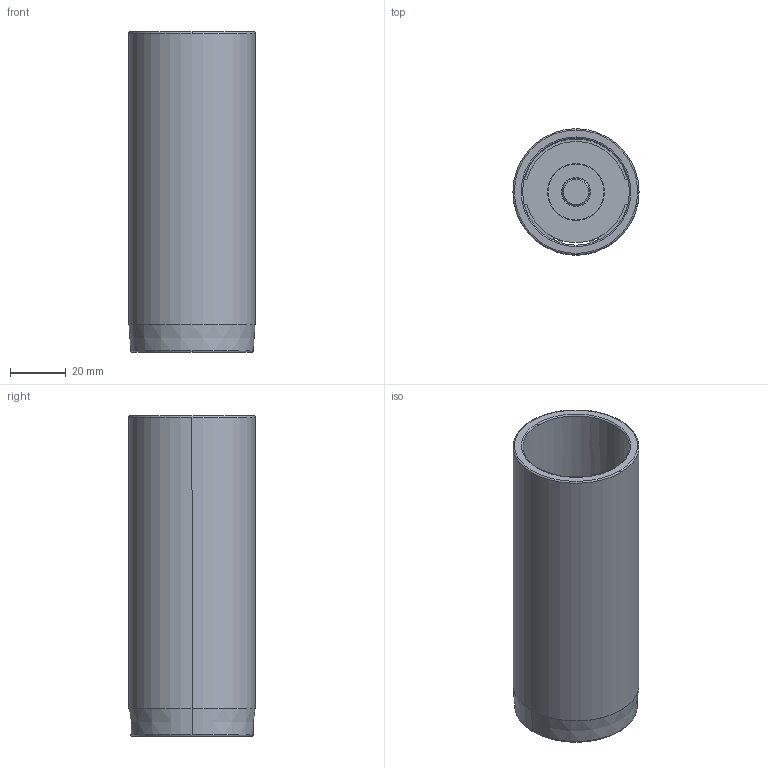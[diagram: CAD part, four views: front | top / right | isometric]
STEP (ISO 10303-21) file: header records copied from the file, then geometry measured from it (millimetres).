
FILE_DESCRIPTION((''),'2;1');
FILE_NAME('C12_038_115.stp','2009-01-28T11:29:53',(''),(''),'Mechanical Desktop 2009','Mechanical Desktop 2009',', , ');
FILE_SCHEMA(('CONFIG_CONTROL_DESIGN'));
Length unit declared in the file: millimetre
Products named in the file (2): Product; blmdl1
Assembly tree (1 placements, depth 2):
  Product
    blmdl1
Bounding box: 45.25 x 45.25 x 115 mm (x, y, z)
Volume: 56690.5 mm3; surface area: 37133.7 mm2
Topology: 5 solids, 5 shells, 79 faces, 200 edges, 134 vertices
Faces by surface type: cylinder 34, plane 29, torus 10, cone 6
Entity records: 2585 total; most frequent: DIRECTION 480, CARTESIAN_POINT 435, ORIENTED_EDGE 400, AXIS2_PLACEMENT_3D 203, EDGE_CURVE 200, VERTEX_POINT 134, CIRCLE 122, EDGE_LOOP 92
